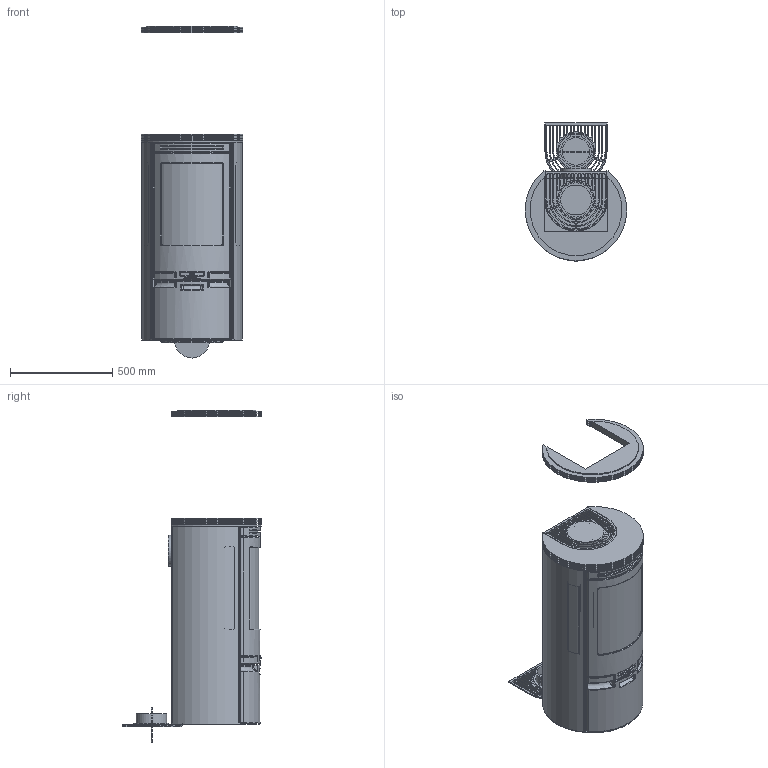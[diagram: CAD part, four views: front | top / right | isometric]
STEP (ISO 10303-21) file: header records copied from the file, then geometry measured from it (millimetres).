
FILE_DESCRIPTION( ( 'Unknown' ), '1' );
FILE_NAME( 'C:/Users/JohnH/AppData/Roaming/Unigraphics Solutions/Solid Edge/Insight/insight/insight/interior models/C570 Assembly.stp', 'Unknown', ( 'Unknown' ), ( 'Unknown' ), 'PSStep 13.0', 'Unknown', ' ' );
FILE_SCHEMA( ( 'AUTOMOTIVE_DESIGN { 1 0 10303 214 1 1 1 1 }' ) );
Length unit declared in the file: millimetre
Products named in the file (31): Assem1; Glass Top Colour C570; Glass Top  C570; Rear C570; Side C570; Glass Side C570; Glas Side Colour; Connection; Insert C500; Inside Shielding C550; Foot C500; Lid; Side Glas C500; Top Lamella C570; Glass C500; Drawer C500; Sheet Metal Plinth C500; Lattice C500; Bottom Cast Iron C500; Door C500; Vermiculite C500; Sheet Metal Lid C500; Fire C500
Bounding box: 496 x 675.35 x 1623.15 mm (x, y, z)
Volume: 285358804.8 mm3; surface area: 24663748.4 mm2
Topology: 63 solids, 63 shells, 3335 faces, 8775 edges, 5692 vertices
Faces by surface type: plane 1922, cylinder 781, extrusion 254, bspline 254, torus 90, sphere 20, cone 14
Full cylindrical faces by diameter (mm): 62 x2, 66 x2, 134 x3, 150 x3, 170 x5, 172 x2, 178 x4, 180 x2, 202 x2, 212 x2
Entity records: 102034 total; most frequent: CARTESIAN_POINT 49197, ORIENTED_EDGE 8664, DIRECTION 7198, EDGE_CURVE 4332, VERTEX_POINT 2822, VECTOR 2548, LINE 2421, AXIS2_PLACEMENT_3D 2325
